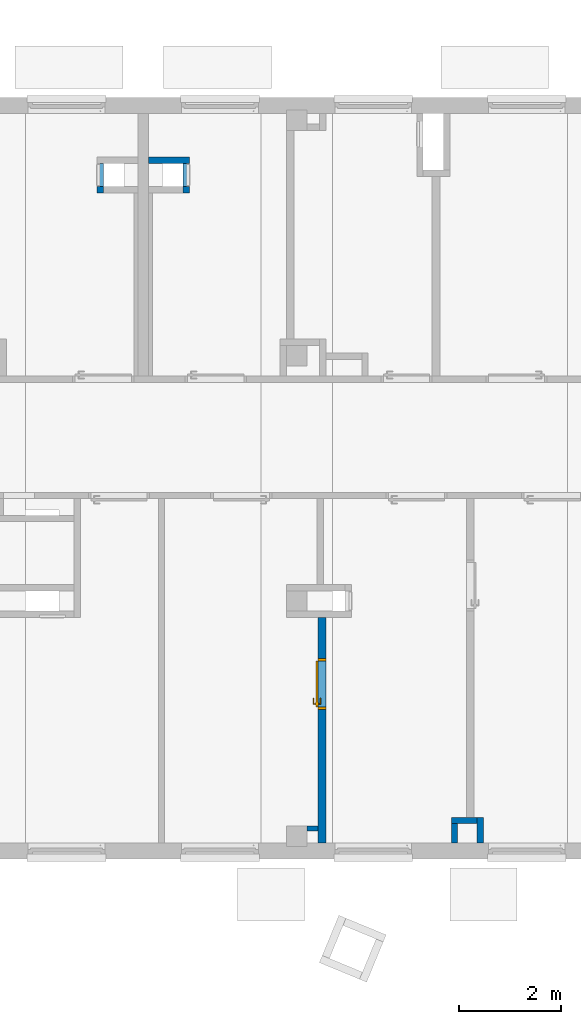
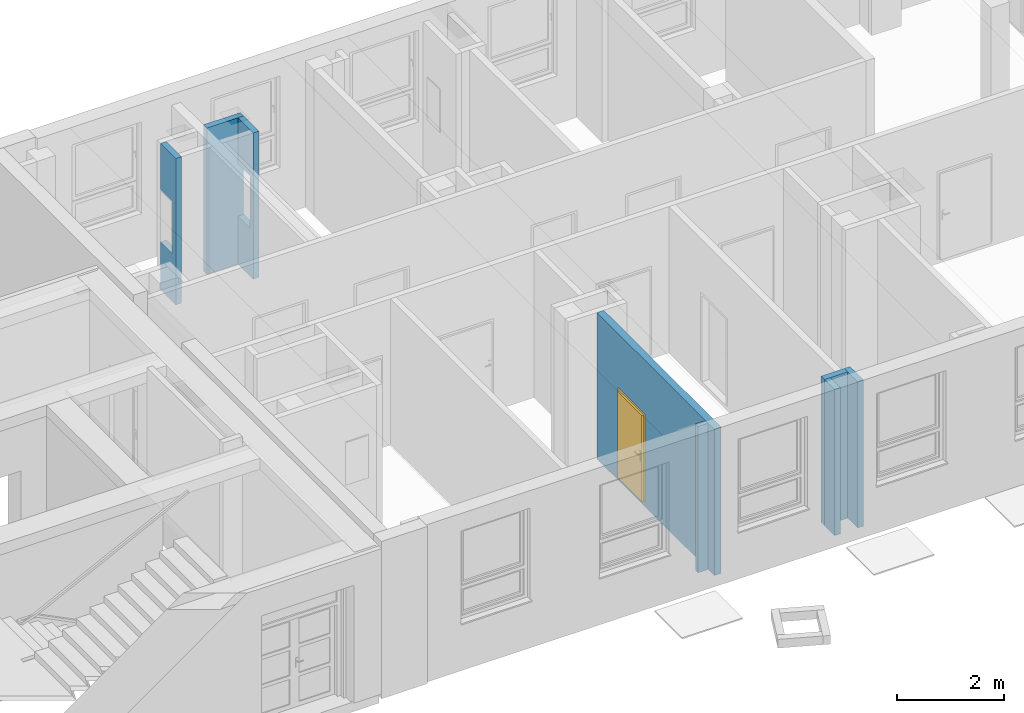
# One storey, part 15 of 140: 8 walls, 1 door, 3 openings.
"""IFC4 building model written with IfcOpenShell, lengths in metres."""

from ifc_helpers import new_model, entity, si_unit, converted_unit, derived_unit, frame, frame_2d, origin, origin_with_axes, place, context, subcontext, project, spatial, polyline, rectangle, outline, extrude, closed_shell, open_shell, surface_model, source, transform, mapped, material, layer, layer_set, layer_usage, type_object, element, fill, save


model = new_model("IFC4")

# Units and contexts
model_context = context("Model", 3, precision=1e-05, world=origin())
body_context = subcontext(model_context, "Body", "Model", "MODEL_VIEW")
ifc_project = project(units=[si_unit("LENGTHUNIT", "METRE"), si_unit("AREAUNIT", "SQUARE_METRE"), si_unit("VOLUMEUNIT", "CUBIC_METRE"), si_unit("MASSUNIT", "GRAM", prefix="KILO"), converted_unit("PLANEANGLEUNIT", "DEGREE", entity("IfcPlaneAngleMeasure", 0.0174532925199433), si_unit("PLANEANGLEUNIT", "RADIAN"), dimensions=[0, 0, 0, 0, 0, 0, 0]), derived_unit("THERMALTRANSMITTANCEUNIT", [(si_unit("POWERUNIT", "WATT"), 1), (si_unit("THERMODYNAMICTEMPERATUREUNIT", "KELVIN"), -1), (si_unit("LENGTHUNIT", "METRE"), -2)]), derived_unit("VOLUMETRICFLOWRATEUNIT", [(si_unit("LENGTHUNIT", "METRE"), 3), (converted_unit("TIMEUNIT", "hour", entity("IfcTimeMeasure", 3600.0), si_unit("TIMEUNIT", "SECOND"), dimensions=[0, 0, 1, 0, 0, 0, 0]), -1), (si_unit("LENGTHUNIT", "METRE"), -1)])], contexts=[model_context])

# Site, building, storey
site_placement = place(None, origin())
site = spatial("IfcSite", under=ifc_project, at=site_placement, Name="3. ASŘ", CompositionType="ELEMENT")
building_placement = place(site_placement, origin())
building = spatial("IfcBuilding", under=site, at=building_placement, Name="Pavilon C", CompositionType="ELEMENT")
storey_placement = place(building_placement, origin())
storey = spatial("IfcBuildingStorey", under=building, at=storey_placement, Name="Půdorys 1.NP", CompositionType="ELEMENT", Elevation=0.0)

# Wall
ifc_material_1 = material(Name="ZDIVO Z CDm")
ifc_layer_1 = layer(ifc_material_1, 0.125)
ifc_layer_set_1 = layer_set([ifc_layer_1])
ifc_layer_usage_1 = layer_usage(ifc_layer_set_1, "AXIS2", "POSITIVE", 0.0)
wall_1_placement = place(storey_placement, frame((3.1, 13.955, -0.1)))
element("IfcWall", 1, at=wall_1_placement, inside=storey, material=ifc_layer_usage_1, Name="ZDIVO Z CDm", context=body_context, shape_type="SweptSolid", body=[
    extrude(rectangle(XDim=0.800000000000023, YDim=0.125, at=frame_2d((0.400000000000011, 0.0625), x_axis=(1.0, 0.0))), origin_with_axes(), (0.0, 0.0, 1.0), 3.35),
])

# Wall, opening
ifc_material_2 = material(Name="ZDIVO Z CDm")
ifc_layer_2 = layer(ifc_material_2, 0.125)
ifc_layer_set_2 = layer_set([ifc_layer_2])
ifc_layer_usage_2 = layer_usage(ifc_layer_set_2, "AXIS2", "POSITIVE", 0.0)
wall_2_placement = place(storey_placement, frame((3.77500000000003, 13.955, -0.1), z_axis=(0.0, 0.0, 1.0), x_axis=(0.0, -1.0, 0.0)))
wall_2 = element("IfcWall", 2, at=wall_2_placement, inside=storey, material=ifc_layer_usage_2, Name="ZDIVO Z CDm", context=body_context, shape_type="SweptSolid", body=[
    extrude(rectangle(XDim=0.575, YDim=0.125, at=frame_2d((0.2875, 0.0625), x_axis=(1.0, 0.0))), origin_with_axes(), (0.0, 0.0, 1.0), 3.35),
])
opening_1_placement = place(wall_2_placement, frame((0.450000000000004, 0.125, 1.1), z_axis=(0.0, -1.0, 0.0), x_axis=(0.0, 0.0, 1.0)))
element("IfcOpeningElement", 3, at=opening_1_placement, cuts=wall_2, Name="Okenní otvor", ObjectType="Opening", context=body_context, shape_type="SweptSolid", body=[
    extrude(outline(polyline([(0.0, 0.450000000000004), (1.2, 0.450000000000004), (1.2, 0.0), (0.0, 0.0), (0.0, 0.450000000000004)])), origin_with_axes(), (0.0, 0.0, 1.0), 0.125),
])

ifc_material_3 = material(Name="ZDIVO Z CDm")
ifc_layer_3 = layer(ifc_material_3, 0.125)
ifc_layer_set_3 = layer_set([ifc_layer_3])
ifc_layer_usage_3 = layer_usage(ifc_layer_set_3, "AXIS2", "POSITIVE", 0.0)
wall_3_placement = place(storey_placement, frame((2.22500000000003, 13.38, -0.1), z_axis=(0.0, 0.0, 1.0), x_axis=(0.0, 1.0, 0.0)))
wall_3 = element("IfcWall", 4, at=wall_3_placement, inside=storey, material=ifc_layer_usage_3, Name="ZDIVO Z CDm", context=body_context, shape_type="SweptSolid", body=[
    extrude(rectangle(XDim=0.575, YDim=0.125, at=frame_2d((0.2875, 0.0625), x_axis=(1.0, 0.0))), origin_with_axes(), (0.0, 0.0, 1.0), 3.35),
])
opening_2_placement = place(wall_3_placement, frame((0.575, 0.125, 1.1), z_axis=(0.0, -1.0, 0.0), x_axis=(0.0, 0.0, 1.0)))
element("IfcOpeningElement", 5, at=opening_2_placement, cuts=wall_3, Name="Okenní otvor", ObjectType="Opening", context=body_context, shape_type="SweptSolid", body=[
    extrude(outline(polyline([(0.0, 0.450000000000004), (1.2, 0.450000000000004), (1.2, 0.0), (0.0, 0.0), (0.0, 0.450000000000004)])), origin_with_axes(), (0.0, 0.0, 1.0), 0.125),
])

# Wall, opening, door
ifc_material_4 = material(Name="YTONG 150")
ifc_layer_4 = layer(ifc_material_4, 0.15)
ifc_layer_set_4 = layer_set([ifc_layer_4])
ifc_layer_usage_4 = layer_usage(ifc_layer_set_4, "AXIS2", "POSITIVE", 0.0)
wall_4_placement = place(storey_placement, frame((6.42, 5.075, -0.1), z_axis=(0.0, 0.0, 1.0), x_axis=(-2.0646871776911e-16, -1.0, 0.0)))
wall_4 = element("IfcWall", 6, at=wall_4_placement, inside=storey, material=ifc_layer_usage_4, Name="YTONG 150", context=body_context, shape_type="SweptSolid", body=[
    extrude(rectangle(XDim=4.405, YDim=0.15, at=frame_2d((2.2025, 0.075), x_axis=(1.0, 0.0))), origin_with_axes(), (0.0, 0.0, 1.0), 3.35),
])
opening_3_placement = place(wall_4_placement, frame((0.800000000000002, 1.65174974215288e-16, 0.1), z_axis=(0.0, 1.0, 0.0), x_axis=(0.0, 0.0, 1.0)))
opening_3 = element("IfcOpeningElement", 7, at=opening_3_placement, cuts=wall_4, Name="Dveřní otvor", ObjectType="Opening", context=body_context, shape_type="SweptSolid", body=[
    extrude(outline(polyline([(0.0, 0.999999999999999), (2.02, 0.999999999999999), (2.02, 0.0), (0.0, 0.0), (0.0, 0.999999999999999)])), origin_with_axes(), (0.0, 0.0, 1.0), 0.15),
])
door_type = type_object("IfcDoorType", Name="D101", OperationType="NOTDEFINED", ParameterTakesPrecedence=False, PredefinedType="DOOR")
shared_shape = source(origin_with_axes(), body_context, "Body", "SurfaceModel", [
    surface_model("IfcShellBasedSurfaceModel", [(0.0, 0.15, 2.02), (0.0, 0.15, -9.18485099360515e-18), (0.05, 0.15, -9.18485099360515e-18), (0.05, 0.15, 2.02), (0.0, 0.0, 9.18485099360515e-18), (0.0, 2.55795384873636e-16, 2.02), (0.05, 2.55795384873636e-16, 2.02), (0.05, 0.0, 9.18485099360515e-18)], [closed_shell([[[0, 1, 2, 3]], [[4, 5, 6, 7]], [[1, 0, 5, 4]], [[2, 1, 4, 7]], [[3, 2, 7, 6]], [[0, 3, 6, 5]]], orient=[[False], [False], [False], [False], [False], [False]])]),
    surface_model("IfcShellBasedSurfaceModel", [(0.95, 0.15, 2.02), (0.95, 0.15, -9.18485099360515e-18), (1.0, 0.15, -9.18485099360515e-18), (1.0, 0.15, 2.02), (0.95, 0.0, 9.18485099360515e-18), (0.95, 2.55795384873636e-16, 2.02), (1.0, 2.55795384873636e-16, 2.02), (1.0, 0.0, 9.18485099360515e-18)], [closed_shell([[[0, 1, 2, 3]], [[4, 5, 6, 7]], [[1, 0, 5, 4]], [[2, 1, 4, 7]], [[3, 2, 7, 6]], [[0, 3, 6, 5]]], orient=[[False], [False], [False], [False], [False], [False]])]),
    surface_model("IfcShellBasedSurfaceModel", [(0.05, 0.15, 2.02), (0.05, 0.15, 1.97), (0.95, 0.15, 1.97), (0.95, 0.15, 2.02), (0.05, 2.27373675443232e-16, 1.97), (0.05, 2.27373675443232e-16, 2.02), (0.95, 2.27373675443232e-16, 2.02), (0.95, 2.27373675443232e-16, 1.97)], [closed_shell([[[0, 1, 2, 3]], [[4, 5, 6, 7]], [[1, 0, 5, 4]], [[2, 1, 4, 7]], [[3, 2, 7, 6]], [[0, 3, 6, 5]]], orient=[[False], [False], [False], [False], [False], [False]])]),
    surface_model("IfcShellBasedSurfaceModel", [(0.05, 0.19, 1.97), (0.05, 0.19, -1.40834381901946e-17), (0.95, 0.19, -1.40834381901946e-17), (0.95, 0.19, 1.97), (0.05, 0.15, -9.18485099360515e-18), (0.05, 0.15, 1.97), (0.95, 0.15, 1.97), (0.95, 0.15, -9.18485099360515e-18)], [closed_shell([[[0, 1, 2, 3]], [[4, 5, 6, 7]], [[1, 0, 5, 4]], [[2, 1, 4, 7]], [[3, 2, 7, 6]], [[0, 3, 6, 5]]], orient=[[False], [False], [False], [False], [False], [False]])]),
    surface_model("IfcShellBasedSurfaceModel", [(0.86, 0.15, 1.125), (0.86, 0.15, 0.91), (0.91, 0.15, 0.91), (0.91, 0.15, 1.125), (0.86, 0.14, 0.91), (0.86, 0.14, 1.125), (0.91, 0.14, 1.125), (0.91, 0.14, 0.91)], [closed_shell([[[0, 1, 2, 3]], [[4, 5, 6, 7]], [[1, 0, 5, 4]], [[2, 1, 4, 7]], [[3, 2, 7, 6]], [[0, 3, 6, 5]]], orient=[[False], [False], [False], [False], [False], [False]])]),
    surface_model("IfcShellBasedSurfaceModel", [(0.885, 0.14, 1.06), (0.88, 0.14, 1.05866025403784), (0.876339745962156, 0.14, 1.055), (0.875, 0.14, 1.05), (0.876339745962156, 0.14, 1.045), (0.88, 0.14, 1.04133974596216), (0.885, 0.14, 1.04), (0.89, 0.14, 1.04133974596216), (0.893660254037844, 0.14, 1.045), (0.895, 0.14, 1.05), (0.893660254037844, 0.14, 1.055), (0.89, 0.14, 1.05866025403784), (0.89, 0.0950000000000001, 1.05866025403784), (0.885, 0.1, 1.06), (0.893660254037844, 0.0913397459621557, 1.055), (0.895, 0.0900000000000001, 1.05), (0.893660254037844, 0.0913397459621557, 1.045), (0.89, 0.0950000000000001, 1.04133974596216), (0.885, 0.1, 1.04), (0.88, 0.105, 1.04133974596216), (0.876339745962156, 0.108660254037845, 1.045), (0.875, 0.11, 1.05), (0.876339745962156, 0.108660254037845, 1.055), (0.88, 0.105, 1.05866025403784), (0.77, 0.0950000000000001, 1.05866025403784), (0.77, 0.1, 1.06), (0.77, 0.0913397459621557, 1.055), (0.77, 0.0900000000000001, 1.05), (0.77, 0.0913397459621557, 1.045), (0.77, 0.0950000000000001, 1.04133974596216), (0.77, 0.1, 1.04), (0.77, 0.105, 1.04133974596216), (0.77, 0.108660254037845, 1.045), (0.77, 0.11, 1.05), (0.77, 0.108660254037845, 1.055), (0.77, 0.105, 1.05866025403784)], [open_shell([[[0, 1, 2, 3, 4, 5, 6, 7, 8, 9, 10, 11]], [[0, 11, 12, 13]], [[11, 10, 14, 12]], [[10, 9, 15, 14]], [[9, 8, 16, 15]], [[8, 7, 17, 16]], [[7, 6, 18, 17]], [[6, 5, 19, 18]], [[5, 4, 20, 19]], [[4, 3, 21, 20]], [[3, 2, 22, 21]], [[2, 1, 23, 22]], [[1, 0, 13, 23]], [[13, 12, 24, 25]], [[12, 14, 26, 24]], [[14, 15, 27, 26]], [[15, 16, 28, 27]], [[16, 17, 29, 28]], [[17, 18, 30, 29]], [[18, 19, 31, 30]], [[19, 20, 32, 31]], [[20, 21, 33, 32]], [[21, 22, 34, 33]], [[22, 23, 35, 34]], [[23, 13, 25, 35]]], orient=[[False], [False], [False], [False], [False], [False], [False], [False], [False], [False], [False], [False], [False], [False], [False], [False], [False], [False], [False], [False], [False], [False], [False], [False], [False]])]),
    surface_model("IfcShellBasedSurfaceModel", [(0.86, 0.19, 1.125), (0.91, 0.19, 1.125), (0.91, 0.19, 0.91), (0.86, 0.19, 0.91), (0.86, 0.2, 0.91), (0.91, 0.2, 0.91), (0.91, 0.2, 1.125), (0.86, 0.2, 1.125)], [closed_shell([[[0, 1, 2, 3]], [[4, 5, 6, 7]], [[3, 4, 7, 0]], [[2, 5, 4, 3]], [[1, 6, 5, 2]], [[0, 7, 6, 1]]], orient=[[False], [False], [False], [False], [False], [False]])]),
    surface_model("IfcShellBasedSurfaceModel", [(0.885, 0.2, 1.06), (0.89, 0.2, 1.05866025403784), (0.893660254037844, 0.2, 1.055), (0.895, 0.2, 1.05), (0.893660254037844, 0.2, 1.045), (0.89, 0.2, 1.04133974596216), (0.885, 0.2, 1.04), (0.88, 0.2, 1.04133974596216), (0.876339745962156, 0.2, 1.045), (0.875, 0.2, 1.05), (0.876339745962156, 0.2, 1.055), (0.88, 0.2, 1.05866025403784), (0.885, 0.24, 1.06), (0.89, 0.245, 1.05866025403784), (0.893660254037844, 0.248660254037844, 1.055), (0.895, 0.25, 1.05), (0.893660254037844, 0.248660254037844, 1.045), (0.89, 0.245, 1.04133974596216), (0.885, 0.24, 1.04), (0.88, 0.235, 1.04133974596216), (0.876339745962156, 0.231339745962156, 1.045), (0.875, 0.23, 1.05), (0.876339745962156, 0.231339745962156, 1.055), (0.88, 0.235, 1.05866025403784), (0.77, 0.24, 1.06), (0.77, 0.245, 1.05866025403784), (0.77, 0.248660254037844, 1.055), (0.77, 0.25, 1.05), (0.77, 0.248660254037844, 1.045), (0.77, 0.245, 1.04133974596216), (0.77, 0.24, 1.04), (0.77, 0.235, 1.04133974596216), (0.77, 0.231339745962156, 1.045), (0.77, 0.23, 1.05), (0.77, 0.231339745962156, 1.055), (0.77, 0.235, 1.05866025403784)], [open_shell([[[0, 1, 2, 3, 4, 5, 6, 7, 8, 9, 10, 11]], [[0, 12, 13, 1]], [[1, 13, 14, 2]], [[2, 14, 15, 3]], [[3, 15, 16, 4]], [[4, 16, 17, 5]], [[5, 17, 18, 6]], [[6, 18, 19, 7]], [[7, 19, 20, 8]], [[8, 20, 21, 9]], [[9, 21, 22, 10]], [[10, 22, 23, 11]], [[11, 23, 12, 0]], [[12, 24, 25, 13]], [[13, 25, 26, 14]], [[14, 26, 27, 15]], [[15, 27, 28, 16]], [[16, 28, 29, 17]], [[17, 29, 30, 18]], [[18, 30, 31, 19]], [[19, 31, 32, 20]], [[20, 32, 33, 21]], [[21, 33, 34, 22]], [[22, 34, 35, 23]], [[23, 35, 24, 12]]], orient=[[False], [False], [False], [False], [False], [False], [False], [False], [False], [False], [False], [False], [False], [False], [False], [False], [False], [False], [False], [False], [False], [False], [False], [False], [False]])]),
])
door_placement = place(opening_3_placement, frame((0.0, 1.81898940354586e-15, 0.149999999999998), z_axis=(1.0, 0.0, 0.0), x_axis=(0.0, 0.999999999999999, 8.40040378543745e-17)))
door = element("IfcDoor", 8, at=door_placement, inside=storey, type_object=door_type, Name="D101", OverallHeight=2.02, OverallWidth=1.0, context=body_context, shape_type="MappedRepresentation", body=[
    mapped(shared_shape, transform((0.0, 0.0, 0.0), x_axis=(1.0, 0.0, 0.0), y_axis=(0.0, -1.0, 0.0), z_axis=(0.0, 0.0, 1.0), scale=0.999999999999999)),
])
fill(opening_3, door)

# Walls
ifc_material_5 = material(Name="YTONG 100")
ifc_layer_5 = layer(ifc_material_5, 0.1)
ifc_layer_set_5 = layer_set([ifc_layer_5])
ifc_layer_usage_5 = layer_usage(ifc_layer_set_5, "AXIS2", "POSITIVE", 0.0)
wall_5_placement = place(storey_placement, frame((6.42, 1.0, -0.1), z_axis=(0.0, 0.0, 1.0), x_axis=(-1.0, 0.0, 0.0)))
element("IfcWall", 9, at=wall_5_placement, inside=storey, material=ifc_layer_usage_5, Name="YTONG 100", context=body_context, shape_type="SweptSolid", body=[
    extrude(rectangle(XDim=0.219999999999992, YDim=0.1, at=frame_2d((0.109999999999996, 0.05), x_axis=(1.0, 0.0))), origin_with_axes(), (0.0, 0.0, 1.0), 3.35),
])
ifc_material_6 = material(Name="ZDIVO Z CDm")
ifc_layer_6 = layer(ifc_material_6, 0.125)
ifc_layer_set_6 = layer_set([ifc_layer_6])
ifc_layer_usage_6 = layer_usage(ifc_layer_set_6, "AXIS2", "POSITIVE", 0.0)
wall_6_placement = place(storey_placement, frame((9.65000000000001, 0.670000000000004, -0.1), z_axis=(0.0, 0.0, 1.0), x_axis=(0.0, 1.0, 0.0)))
element("IfcWall", 10, at=wall_6_placement, inside=storey, material=ifc_layer_usage_6, Name="ZDIVO Z CDm", context=body_context, shape_type="SweptSolid", body=[
    extrude(rectangle(XDim=0.5, YDim=0.125, at=frame_2d((0.25, 0.0625), x_axis=(1.0, 0.0))), origin_with_axes(), (0.0, 0.0, 1.0), 3.35),
])
ifc_material_7 = material(Name="ZDIVO Z CDm")
ifc_layer_7 = layer(ifc_material_7, 0.125)
ifc_layer_set_7 = layer_set([ifc_layer_7])
ifc_layer_usage_7 = layer_usage(ifc_layer_set_7, "AXIS2", "POSITIVE", 0.0)
wall_7_placement = place(storey_placement, frame((9.52500000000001, 1.17, -0.1), z_axis=(0.0, 0.0, 1.0), x_axis=(-1.0, 0.0, 0.0)))
element("IfcWall", 11, at=wall_7_placement, inside=storey, material=ifc_layer_usage_7, Name="ZDIVO Z CDm", context=body_context, shape_type="SweptSolid", body=[
    extrude(rectangle(XDim=0.5, YDim=0.125, at=frame_2d((0.25, 0.0625), x_axis=(1.0, 0.0))), origin_with_axes(), (0.0, 0.0, 1.0), 3.35),
])
ifc_material_8 = material(Name="ZDIVO Z CDm")
ifc_layer_8 = layer(ifc_material_8, 0.125)
ifc_layer_set_8 = layer_set([ifc_layer_8])
ifc_layer_usage_8 = layer_usage(ifc_layer_set_8, "AXIS2", "POSITIVE", 0.0)
wall_8_placement = place(storey_placement, frame((9.02500000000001, 1.045, -0.1), z_axis=(0.0, 0.0, 1.0), x_axis=(0.0, -1.0, 0.0)))
element("IfcWall", 12, at=wall_8_placement, inside=storey, material=ifc_layer_usage_8, Name="ZDIVO Z CDm", context=body_context, shape_type="SweptSolid", body=[
    extrude(rectangle(XDim=0.375, YDim=0.125, at=frame_2d((0.1875, 0.0625), x_axis=(1.0, 0.0))), origin_with_axes(), (0.0, 0.0, 1.0), 3.35),
])

save(model, "model.ifc")
